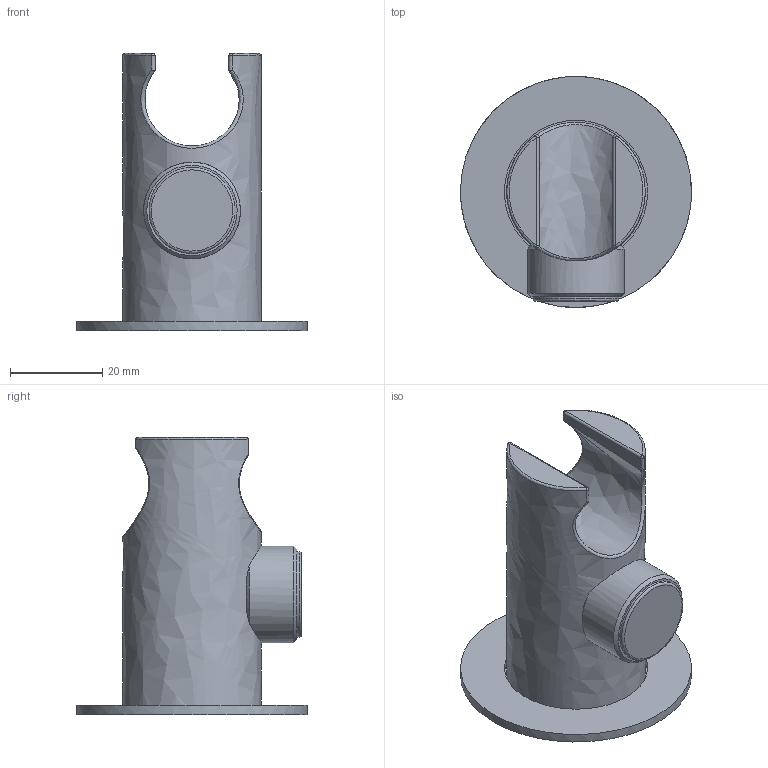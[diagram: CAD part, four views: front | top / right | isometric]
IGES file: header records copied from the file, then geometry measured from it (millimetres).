
Global section: file name: H0BA1062; native system: Autodesk Inventor 2015; preprocessor: unknown; author: SIGNORINI; date: 20150514.143454; units: millimetre
Bounding box: 50 x 49.97 x 60 mm (x, y, z)
Volume: 37992.2 mm3; surface area: 10663.8 mm2
Topology: 1 solids, 1 shells, 35 faces, 79 edges, 50 vertices
Faces by surface type: bspline 35
